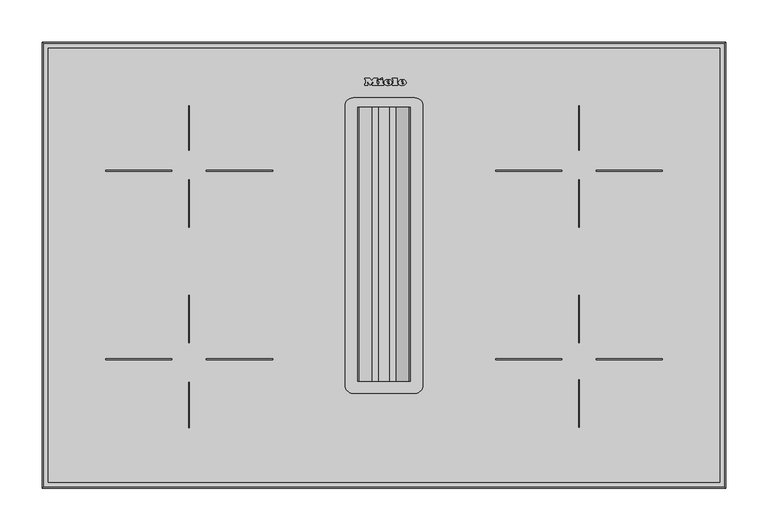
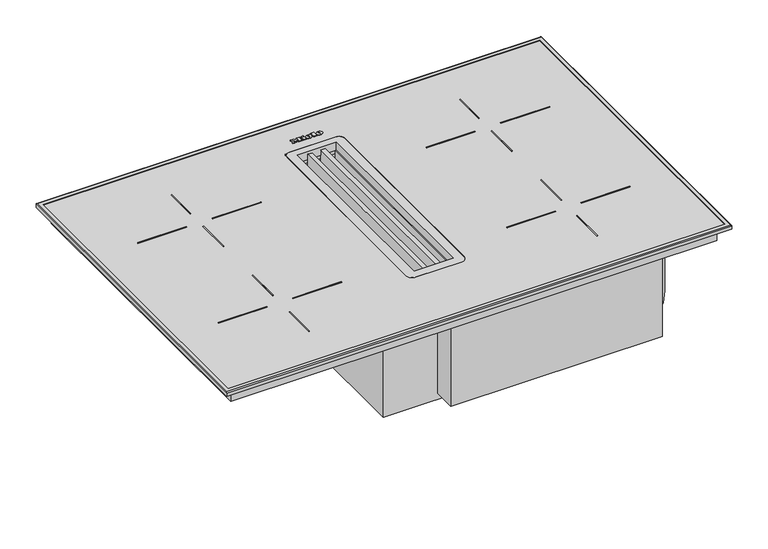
"""IFC4 building model written with IfcOpenShell, lengths in millimetres: proxy geometry, 12970700_NER_KMDA7272-1FR : 26727276_NER_12970700_KMDA7272-1FR."""

from ifc_helpers import new_model, si_unit, point, frame, frame_2d, origin, origin_with_axes, place, context, project, spatial, polyline, circle_curve, ellipse_curve, trimmed, segment, composite_curve, outline, extrude, faceted_brep, source, transform, mapped, element, save
from ifc_brep_helpers import plane_surface, cylinder_surface, revolved_surface, extruded_surface, advanced_brep


def specialty_equipment_56d19404(model_context):
    return source(origin(), model_context, "Body", "SolidModel", [
        advanced_brep(
        [(20.8243124, 477.5406203, 6.0), (20.8243124, 478.3486203, 6.0), (26.1763124, 478.3486203, 6.0), (16.8643124, 478.3486203, 6.0), (19.0643124, 475.6446203, 6.0), (26.0403124, 477.5406203, 6.0), (23.6243124, 477.5406203, 6.0), (21.7203124, 476.6446203, 6.0), (20.8243124, 479.3726203, 6.0), (20.8243124, 480.2446203, 6.0), (22.1923124, 480.2446203, 6.0), (22.1923124, 479.3726203, 6.0), (20.8243124, 477.5406203, 5.0), (21.7203124, 476.6446203, 5.0), (23.6243124, 477.5406203, 5.0), (26.0403124, 477.5406203, 5.0), (19.0643124, 475.6446203, 5.0), (16.8643124, 478.3486203, 5.0), (26.1763124, 478.3486203, 5.0), (20.8243124, 478.3486203, 5.0), (20.8243124, 479.3726203, 5.0), (22.1923124, 479.3726203, 5.0), (22.1923124, 480.2446203, 5.0), (20.8243124, 480.2446203, 5.0)],
        [
            (0, 1),
            (1, 2),
            (2, 3, ellipse_curve(frame((21.5203124, 478.3486203, 6.0), z_axis=(0.0, 0.0, 1.0), x_axis=(-1.0, 0.0, 0.0)), 4.656, 3.848)),
            (3, 4, circle_curve(frame((19.960356, 478.6206203, 6.0), z_axis=(0.0, 0.0, 1.0), x_axis=(0.0, -1.0, 0.0)), 3.1079688)),
            (4, 5, circle_curve(frame((21.4271059, 480.7326203, 6.0), z_axis=(0.0, 0.0, 1.0), x_axis=(0.0, -1.0, 0.0)), 5.6098607)),
            (5, 6),
            (6, 7, circle_curve(frame((22.1113712, 478.2846203, 6.0), z_axis=(0.0, 0.0, -1.0), x_axis=(0.0, -1.0, 0.0)), 1.6859795)),
            (7, 0, circle_curve(frame((21.7203124, 477.5406203, 6.0), z_axis=(0.0, 0.0, -1.0), x_axis=(0.0, -1.0, 0.0)), 0.896)),
            (8, 9),
            (9, 10, circle_curve(frame((21.5083124, 480.2446203, 6.0), z_axis=(0.0, 0.0, -1.0), x_axis=(0.0, -1.0, 0.0)), 0.684)),
            (10, 11),
            (11, 8),
            (12, 13, circle_curve(frame((21.7203124, 477.5406203, 5.0), z_axis=(0.0, 0.0, 1.0), x_axis=(0.0, -1.0, 0.0)), 0.896)),
            (13, 14, circle_curve(frame((22.1113712, 478.2846203, 5.0), z_axis=(0.0, 0.0, 1.0), x_axis=(0.0, -1.0, 0.0)), 1.6859795)),
            (14, 15),
            (15, 16, circle_curve(frame((21.4271059, 480.7326203, 5.0), z_axis=(0.0, 0.0, -1.0), x_axis=(0.0, -1.0, 0.0)), 5.6098607)),
            (16, 17, circle_curve(frame((19.960356, 478.6206203, 5.0), z_axis=(0.0, 0.0, -1.0), x_axis=(0.0, -1.0, 0.0)), 3.1079688)),
            (17, 18, ellipse_curve(frame((21.5203124, 478.3486203, 5.0), z_axis=(0.0, 0.0, -1.0), x_axis=(-1.0, 0.0, 0.0)), 4.656, 3.848)),
            (18, 19),
            (19, 12),
            (20, 21),
            (21, 22),
            (22, 23, circle_curve(frame((21.5083124, 480.2446203, 5.0), z_axis=(0.0, 0.0, 1.0), x_axis=(0.0, -1.0, 0.0)), 0.684)),
            (23, 20),
            (0, 12),
            (19, 1),
            (18, 2),
            (5, 15),
            (14, 6),
            (17, 3),
            (13, 7),
            (16, 4),
            (8, 20),
            (23, 9),
            (22, 10),
            (21, 11),
        ],
        [
            plane_surface(frame((20.8243124, 478.3486203, 6.0), z_axis=(0.0, 0.0, 1.0), x_axis=(0.0, 1.0, 0.0))),
            plane_surface(frame((20.8243124, 478.3486203, 5.0), z_axis=(0.0, 0.0, -1.0), x_axis=(0.0, -1.0, 0.0))),
            plane_surface(frame((20.8243124, 477.5406203, 6.0), z_axis=(1.0, 0.0, 0.0), x_axis=(0.0, 0.0, -1.0))),
            plane_surface(frame((20.8243124, 478.3486203, 6.0), z_axis=(0.0, -1.0, 0.0), x_axis=(0.0, 0.0, -1.0))),
            plane_surface(frame((26.0403124, 477.5406203, 6.0), z_axis=(0.0, 1.0, 0.0), x_axis=(0.0, 0.0, -1.0))),
            extruded_surface(trimmed(ellipse_curve(frame((21.5203124, 478.3486203, 4.0), z_axis=(0.0, 0.0, 1.0), x_axis=(-1.0, 0.0, 0.0)), 4.656, 3.848), [point((26.1763124, 478.3486203, 4.0))], [point((16.8643124, 478.3486203, 4.0))], True, "CARTESIAN"), (0.0, 0.0, 1.0), 1.0),
            revolved_surface(polyline([(22.1113712, 476.5986408, 5.0), (22.1113712, 476.5986408, 6.0)]), (22.1113712, 478.2846203, 5.0), (0.0, 0.0, -1.0)),
            revolved_surface(polyline([(21.7203124, 476.6446203, 5.0), (21.7203124, 476.6446203, 6.0)]), (21.7203124, 477.5406203, 5.0), (0.0, 0.0, -1.0)),
            cylinder_surface(frame((19.960356, 478.6206203, 5.0), z_axis=(0.0, 0.0, 1.0), x_axis=(0.0, -1.0, 0.0)), 3.1079688),
            cylinder_surface(frame((21.4271059, 480.7326203, 5.0), z_axis=(0.0, 0.0, 1.0), x_axis=(0.0, -1.0, 0.0)), 5.6098607),
            plane_surface(frame((20.8243124, 479.3726203, 6.0), z_axis=(1.0, 0.0, 0.0), x_axis=(0.0, 0.0, -1.0))),
            revolved_surface(polyline([(21.5083124, 479.5606203, 5.0), (21.5083124, 479.5606203, 6.0)]), (21.5083124, 480.2446203, 5.0), (0.0, 0.0, -1.0)),
            plane_surface(frame((22.1923124, 480.2446203, 6.0), z_axis=(-1.0, 0.0, 0.0), x_axis=(0.0, 0.0, -1.0))),
            plane_surface(frame((22.1923124, 479.3726203, 6.0), z_axis=(0.0, 1.0, 0.0), x_axis=(0.0, 0.0, -1.0))),
        ],
        [
            (0, [[1, 2, 3, 4, 5, 6, 7, 8], [9, 10, 11, 12]]),
            (1, [[13, 14, 15, 16, 17, 18, 19, 20], [21, 22, 23, 24]]),
            (2, [[-1, 25, -20, 26]]),
            (3, [[-2, -26, -19, 27]]),
            (4, [[-6, 28, -15, 29]]),
            (5, [[-3, -27, -18, 30]]),
            (6, [[-7, -29, -14, 31]]),
            (7, [[-8, -31, -13, -25]]),
            (8, [[-4, -30, -17, 32]]),
            (9, [[-5, -32, -16, -28]]),
            (10, [[-9, 33, -24, 34]]),
            (11, [[-10, -34, -23, 35]]),
            (12, [[-11, -35, -22, 36]]),
            (13, [[-12, -36, -21, -33]]),
        ],
    ),
        advanced_brep(
        [(4.1283124, 477.5406203, 6.0), (4.1283124, 478.3486203, 6.0), (9.4803124, 478.3486203, 6.0), (0.1683124, 478.3486203, 6.0), (2.3683124, 475.6446203, 6.0), (9.3443124, 477.5406203, 6.0), (6.9283124, 477.5406203, 6.0), (5.0243124, 476.6446203, 6.0), (4.1283124, 479.3726203, 6.0), (4.1283124, 480.2446203, 6.0), (5.4963124, 480.2446203, 6.0), (5.4963124, 479.3726203, 6.0), (4.1283124, 477.5406203, 5.0), (5.0243124, 476.6446203, 5.0), (6.9283124, 477.5406203, 5.0), (9.3443124, 477.5406203, 5.0), (2.3683124, 475.6446203, 5.0), (0.1683124, 478.3486203, 5.0), (9.4803124, 478.3486203, 5.0), (4.1283124, 478.3486203, 5.0), (4.1283124, 479.3726203, 5.0), (5.4963124, 479.3726203, 5.0), (5.4963124, 480.2446203, 5.0), (4.1283124, 480.2446203, 5.0)],
        [
            (0, 1),
            (1, 2),
            (2, 3, ellipse_curve(frame((4.8243124, 478.3486203, 6.0), z_axis=(0.0, 0.0, 1.0), x_axis=(-1.0, 0.0, 0.0)), 4.656, 3.848)),
            (3, 4, circle_curve(frame((3.264356, 478.6206203, 6.0), z_axis=(0.0, 0.0, 1.0), x_axis=(0.0, -1.0, 0.0)), 3.1079688)),
            (4, 5, circle_curve(frame((4.7311059, 480.7326203, 6.0), z_axis=(0.0, 0.0, 1.0), x_axis=(0.0, -1.0, 0.0)), 5.6098607)),
            (5, 6),
            (6, 7, circle_curve(frame((5.4153712, 478.2846203, 6.0), z_axis=(0.0, 0.0, -1.0), x_axis=(0.0, -1.0, 0.0)), 1.6859795)),
            (7, 0, circle_curve(frame((5.0243124, 477.5406203, 6.0), z_axis=(0.0, 0.0, -1.0), x_axis=(0.0, -1.0, 0.0)), 0.896)),
            (8, 9),
            (9, 10, circle_curve(frame((4.8123124, 480.2446203, 6.0), z_axis=(0.0, 0.0, -1.0), x_axis=(0.0, -1.0, 0.0)), 0.684)),
            (10, 11),
            (11, 8),
            (12, 13, circle_curve(frame((5.0243124, 477.5406203, 5.0), z_axis=(0.0, 0.0, 1.0), x_axis=(0.0, -1.0, 0.0)), 0.896)),
            (13, 14, circle_curve(frame((5.4153712, 478.2846203, 5.0), z_axis=(0.0, 0.0, 1.0), x_axis=(0.0, -1.0, 0.0)), 1.6859795)),
            (14, 15),
            (15, 16, circle_curve(frame((4.7311059, 480.7326203, 5.0), z_axis=(0.0, 0.0, -1.0), x_axis=(0.0, -1.0, 0.0)), 5.6098607)),
            (16, 17, circle_curve(frame((3.264356, 478.6206203, 5.0), z_axis=(0.0, 0.0, -1.0), x_axis=(0.0, -1.0, 0.0)), 3.1079688)),
            (17, 18, ellipse_curve(frame((4.8243124, 478.3486203, 5.0), z_axis=(0.0, 0.0, -1.0), x_axis=(-1.0, 0.0, 0.0)), 4.656, 3.848)),
            (18, 19),
            (19, 12),
            (20, 21),
            (21, 22),
            (22, 23, circle_curve(frame((4.8123124, 480.2446203, 5.0), z_axis=(0.0, 0.0, 1.0), x_axis=(0.0, -1.0, 0.0)), 0.684)),
            (23, 20),
            (0, 12),
            (19, 1),
            (18, 2),
            (5, 15),
            (14, 6),
            (17, 3),
            (13, 7),
            (16, 4),
            (8, 20),
            (23, 9),
            (22, 10),
            (21, 11),
        ],
        [
            plane_surface(frame((4.1283124, 478.3486203, 6.0), z_axis=(0.0, 0.0, 1.0), x_axis=(0.0, 1.0, 0.0))),
            plane_surface(frame((4.1283124, 478.3486203, 5.0), z_axis=(0.0, 0.0, -1.0), x_axis=(0.0, -1.0, 0.0))),
            plane_surface(frame((4.1283124, 477.5406203, 6.0), z_axis=(1.0, 0.0, 0.0), x_axis=(0.0, 0.0, -1.0))),
            plane_surface(frame((4.1283124, 478.3486203, 6.0), z_axis=(0.0, -1.0, 0.0), x_axis=(0.0, 0.0, -1.0))),
            plane_surface(frame((9.3443124, 477.5406203, 6.0), z_axis=(0.0, 1.0, 0.0), x_axis=(0.0, 0.0, -1.0))),
            extruded_surface(trimmed(ellipse_curve(frame((4.8243124, 478.3486203, 4.0), z_axis=(0.0, 0.0, 1.0), x_axis=(-1.0, 0.0, 0.0)), 4.656, 3.848), [point((9.4803124, 478.3486203, 4.0))], [point((0.1683124, 478.3486203, 4.0))], True, "CARTESIAN"), (0.0, 0.0, 1.0), 1.0),
            revolved_surface(polyline([(5.4153712, 476.5986408, 5.0), (5.4153712, 476.5986408, 6.0)]), (5.4153712, 478.2846203, 5.0), (0.0, 0.0, -1.0)),
            revolved_surface(polyline([(5.0243124, 476.6446203, 5.0), (5.0243124, 476.6446203, 6.0)]), (5.0243124, 477.5406203, 5.0), (0.0, 0.0, -1.0)),
            cylinder_surface(frame((3.264356, 478.6206203, 5.0), z_axis=(0.0, 0.0, 1.0), x_axis=(0.0, -1.0, 0.0)), 3.1079688),
            cylinder_surface(frame((4.7311059, 480.7326203, 5.0), z_axis=(0.0, 0.0, 1.0), x_axis=(0.0, -1.0, 0.0)), 5.6098607),
            plane_surface(frame((4.1283124, 479.3726203, 6.0), z_axis=(1.0, 0.0, 0.0), x_axis=(0.0, 0.0, -1.0))),
            revolved_surface(polyline([(4.8123124, 479.5606203, 5.0), (4.8123124, 479.5606203, 6.0)]), (4.8123124, 480.2446203, 5.0), (0.0, 0.0, -1.0)),
            plane_surface(frame((5.4963124, 480.2446203, 6.0), z_axis=(-1.0, 0.0, 0.0), x_axis=(0.0, 0.0, -1.0))),
            plane_surface(frame((5.4963124, 479.3726203, 6.0), z_axis=(0.0, 1.0, 0.0), x_axis=(0.0, 0.0, -1.0))),
        ],
        [
            (0, [[1, 2, 3, 4, 5, 6, 7, 8], [9, 10, 11, 12]]),
            (1, [[13, 14, 15, 16, 17, 18, 19, 20], [21, 22, 23, 24]]),
            (2, [[-1, 25, -20, 26]]),
            (3, [[-2, -26, -19, 27]]),
            (4, [[-6, 28, -15, 29]]),
            (5, [[-3, -27, -18, 30]]),
            (6, [[-7, -29, -14, 31]]),
            (7, [[-8, -31, -13, -25]]),
            (8, [[-4, -30, -17, 32]]),
            (9, [[-5, -32, -16, -28]]),
            (10, [[-9, 33, -24, 34]]),
            (11, [[-10, -34, -23, 35]]),
            (12, [[-11, -35, -22, 36]]),
            (13, [[-12, -36, -21, -33]]),
        ],
    ),
        extrude(outline(polyline([(-4.6156876, 483.1726203), (-1.8956876, 484.4366203), (-1.2956876, 483.1406203), (-4.0076876, 481.8766203), (-4.6156876, 483.1726203)])), frame((0.0, 0.0, 5.0), z_axis=(0.0, 0.0, 1.0), x_axis=(1.0, 0.0, 0.0)), (0.0, 0.0, 1.0), 1.0),
        extrude(outline(polyline([(-6.5916876, 481.7006203), (-1.2076876, 481.7006203), (-1.2076876, 476.9886203), (-0.2796876, 476.9886203), (-0.2796876, 475.6446203), (-6.5916876, 475.6446203), (-6.5916876, 476.9886203), (-5.6396876, 476.9886203), (-5.6396876, 480.2686203), (-6.5916876, 480.2686203), (-6.5916876, 481.7006203)])), frame((0.0, 0.0, 5.0), z_axis=(0.0, 0.0, 1.0), x_axis=(1.0, 0.0, 0.0)), (0.0, 0.0, 1.0), 1.0),
        extrude(outline(polyline([(9.9283124, 482.3406203), (9.9283124, 483.6446203), (15.4323124, 483.6446203), (15.4323124, 476.9886203), (16.4163124, 476.9886203), (16.4163124, 475.6446203), (9.9283124, 475.6446203), (9.9283124, 476.9886203), (10.8883124, 476.9886203), (10.8883124, 482.3406203), (9.9283124, 482.3406203)])), frame((0.0, 0.0, 5.0), z_axis=(0.0, 0.0, 1.0), x_axis=(1.0, 0.0, 0.0)), (0.0, 0.0, 1.0), 1.0),
        extrude(outline(polyline([(-22.5356876, 482.3406203), (-22.5356876, 483.6446203), (-16.9596876, 483.6446203), (-14.6156876, 480.6446203), (-12.2796876, 483.6446203), (-7.4076876, 483.6446203), (-7.4076876, 482.3406203), (-8.4236876, 482.3406203), (-8.4236876, 476.9886203), (-7.4076876, 476.9886203), (-7.4076876, 475.6446203), (-13.7916876, 475.6446203), (-13.7916876, 476.9886203), (-12.8076876, 476.9886203), (-12.8076876, 480.4598426), (-16.3996876, 475.6446203), (-19.9756876, 480.3917451), (-19.9756876, 476.9886203), (-19.0156876, 476.9886203), (-19.0156876, 475.6446203), (-22.5356876, 475.6446203), (-22.5356876, 476.9886203), (-21.5676876, 476.9886203), (-21.5676876, 482.3406203), (-22.5356876, 482.3406203)])), frame((0.0, 0.0, 5.0), z_axis=(0.0, 0.0, 1.0), x_axis=(1.0, 0.0, 0.0)), (0.0, 0.0, 1.0), 1.0),
        faceted_brep([(-71.7186221, 463.5236466, -23.0), (-364.8972461, 463.5236466, -23.0), (-364.8972461, 62.427471, -23.0), (-71.7186221, 62.427471, -23.0), (-71.7186221, 62.427471, -49.8134964), (-364.8972461, 62.427471, -49.8134964), (-364.8972461, 463.5236466, -49.8134964), (-86.144412, 463.5236466, -49.8134964), (-86.144412, 355.5236466, -49.8134964), (-71.7186221, 355.5236466, -49.8134964), (-71.7186221, 463.5236466, -31.728133), (-86.144412, 463.5236466, -31.728133), (-71.7186221, 355.5236466, -31.728133), (-86.144412, 355.5236466, -31.728133)], [[[0, 1, 2, 3]], [[4, 5, 6, 7, 8, 9]], [[1, 0, 10, 11, 7, 6]], [[2, 1, 6, 5]], [[3, 2, 5, 4]], [[0, 3, 4, 9, 12, 10]], [[8, 13, 12, 9]], [[12, 13, 11, 10]], [[13, 8, 7, 11]]]),
        extrude(outline(polyline([(388.0, 511.0), (388.0, 15.0), (-388.0, 15.0), (-388.0, 511.0), (388.0, 511.0)]), holes=[composite_curve([segment(trimmed(circle_curve(frame_2d((36.5, 121.5)), 9.5), [point((36.5, 112.0))], [point((46.0, 121.5))], True, "CARTESIAN"), True, "CONTINUOUS"), segment(polyline([(46.0, 121.5), (46.0, 451.0)]), True, "CONTINUOUS"), segment(trimmed(circle_curve(frame_2d((36.5, 451.0)), 9.5), [point((46.0, 451.0))], [point((36.5, 460.5))], True, "CARTESIAN"), True, "CONTINUOUS"), segment(polyline([(36.5, 460.5), (-36.5395335, 460.5)]), True, "CONTINUOUS"), segment(trimmed(circle_curve(frame_2d((-36.5395335, 451.0395335)), 9.4604665), [point((-36.5395335, 460.5))], [point((-46.0, 451.0395335))], True, "CARTESIAN"), True, "CONTINUOUS"), segment(polyline([(-46.0, 451.0395335), (-46.0, 121.5)]), True, "CONTINUOUS"), segment(trimmed(circle_curve(frame_2d((-36.5, 121.5)), 9.5), [point((-46.0, 121.5))], [point((-36.5, 112.0))], True, "CARTESIAN"), True, "CONTINUOUS"), segment(polyline([(-36.5, 112.0), (36.5, 112.0)]), True, "CONTINUOUS")], self_intersect=False)]), frame((0.0, 0.0, -23.0), z_axis=(0.0, 0.0, 1.0), x_axis=(1.0, 0.0, 0.0)), (0.0, 0.0, 1.0), 23.0),
        extrude(outline(polyline([(400.0, 523.0), (400.0, 3.0), (-400.0, 3.0), (-400.0, 523.0), (400.0, 523.0)]), holes=[composite_curve([segment(polyline([(36.5, 460.5), (-36.5, 460.5)]), True, "CONTINUOUS"), segment(trimmed(circle_curve(frame_2d((-36.5, 451.0)), 9.5), [point((-36.5, 460.5))], [point((-46.0, 451.0))], True, "CARTESIAN"), True, "CONTINUOUS"), segment(polyline([(-46.0, 451.0), (-46.0, 121.5)]), True, "CONTINUOUS"), segment(trimmed(circle_curve(frame_2d((-36.5, 121.5)), 9.5), [point((-46.0, 121.5))], [point((-36.5, 112.0))], True, "CARTESIAN"), True, "CONTINUOUS"), segment(polyline([(-36.5, 112.0), (36.5, 112.0)]), True, "CONTINUOUS"), segment(trimmed(circle_curve(frame_2d((36.5, 121.5)), 9.5), [point((36.5, 112.0))], [point((46.0, 121.5))], True, "CARTESIAN"), True, "CONTINUOUS"), segment(polyline([(46.0, 121.5), (46.0, 451.0)]), True, "CONTINUOUS"), segment(trimmed(circle_curve(frame_2d((36.5, 451.0)), 9.5), [point((46.0, 451.0))], [point((36.5, 460.5))], True, "CARTESIAN"), True, "CONTINUOUS")], self_intersect=False)]), origin_with_axes(), (0.0, 0.0, 1.0), 5.0),
        advanced_brep(
        [(401.854005, 524.854005, 5.8455827), (401.854005, 524.854005, 0.0), (401.854005, 1.145995, 0.0), (401.854005, 1.145995, 5.8455827), (395.9867041, 518.9867041, 7.0), (395.9867041, 518.9867041, 5.8455827), (395.9867041, 7.0132959, 5.8455827), (395.9867041, 7.0132959, 7.0), (403.0, 526.0, 0.0), (403.0, 526.0, 5.5), (403.0, 0.0, 5.5), (403.0, 0.0, 0.0), (-401.854005, 1.145995, 0.0), (-401.854005, 1.145995, 5.8455827), (-395.9867041, 7.0132959, 5.8455827), (-395.9867041, 7.0132959, 7.0), (-403.0, 0.0, 5.5), (-403.0, 0.0, 0.0), (-401.854005, 524.854005, 0.0), (-401.854005, 524.854005, 5.8455827), (-395.9867041, 518.9867041, 5.8455827), (-395.9867041, 518.9867041, 7.0), (-403.0, 526.0, 5.5), (-403.0, 526.0, 0.0), (401.5, 524.5, 7.0), (-401.5, 524.5, 7.0), (-401.5, 1.5, 7.0), (401.5, 1.5, 7.0)],
        [
            (0, 1),
            (1, 2),
            (2, 3),
            (3, 0),
            (4, 5),
            (5, 6),
            (6, 7),
            (7, 4),
            (8, 9),
            (9, 10),
            (10, 11),
            (11, 8),
            (2, 12),
            (12, 13),
            (13, 3),
            (6, 14),
            (14, 15),
            (15, 7),
            (10, 16),
            (16, 17),
            (17, 11),
            (12, 18),
            (18, 19),
            (19, 13),
            (14, 20),
            (20, 21),
            (21, 15),
            (16, 22),
            (22, 23),
            (23, 17),
            (23, 8),
            (1, 18),
            (0, 19),
            (5, 20),
            (4, 21),
            (24, 25),
            (25, 26),
            (26, 27),
            (27, 24),
            (22, 9),
            (9, 24, ellipse_curve(frame((401.5, 524.5, 5.5), z_axis=(0.7071067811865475, -0.7071067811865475, 0.0), x_axis=(0.7071067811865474, 0.7071067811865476, 0.0)), 2.1213203, 1.5)),
            (27, 10, ellipse_curve(frame((401.5, 1.5, 5.5), z_axis=(0.7071067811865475, 0.7071067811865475, 0.0), x_axis=(-0.7071067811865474, 0.7071067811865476, 0.0)), 2.1213203, 1.5)),
            (26, 16, ellipse_curve(frame((-401.5, 1.5, 5.5), z_axis=(0.7071067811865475, -0.7071067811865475, 0.0), x_axis=(0.7071067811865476, 0.7071067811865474, 0.0)), 2.1213203, 1.5)),
            (25, 22, ellipse_curve(frame((-401.5, 524.5, 5.5), z_axis=(-0.7071067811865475, -0.7071067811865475, 0.0), x_axis=(0.7071067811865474, -0.7071067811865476, 0.0)), 2.1213203, 1.5)),
        ],
        [
            plane_surface(frame((401.854005, 524.854005, 0.0), z_axis=(-1.0, 0.0, 0.0), x_axis=(0.0, -1.0, 0.0))),
            plane_surface(frame((395.9867041, 518.9867041, 5.8455827), z_axis=(-1.0, 0.0, 0.0), x_axis=(0.0, -1.0, 0.0))),
            plane_surface(frame((403.0, 526.0, 5.5), z_axis=(1.0, 0.0, 0.0), x_axis=(0.0, -1.0, 0.0))),
            plane_surface(frame((401.854005, 1.145995, 0.0), z_axis=(0.0, 1.0, 0.0), x_axis=(-1.0, 0.0, 0.0))),
            plane_surface(frame((395.9867041, 7.0132959, 5.8455827), z_axis=(0.0, 1.0, 0.0), x_axis=(-1.0, 0.0, 0.0))),
            plane_surface(frame((403.0, 0.0, 5.5), z_axis=(0.0, -1.0, 0.0), x_axis=(-1.0, 0.0, 0.0))),
            plane_surface(frame((-401.854005, 1.145995, 0.0), z_axis=(1.0, 0.0, 0.0), x_axis=(0.0, 1.0, 0.0))),
            plane_surface(frame((-395.9867041, 7.0132959, 5.8455827), z_axis=(1.0, 0.0, 0.0), x_axis=(0.0, 1.0, 0.0))),
            plane_surface(frame((-403.0, 0.0, 5.5), z_axis=(-1.0, 0.0, 0.0), x_axis=(0.0, 1.0, 0.0))),
            plane_surface(frame((-403.0, 526.0, 0.0), z_axis=(0.0, 0.0, -1.0), x_axis=(1.0, 0.0, 0.0))),
            plane_surface(frame((-401.854005, 524.854005, 0.0), z_axis=(0.0, -1.0, 0.0), x_axis=(1.0, 0.0, 0.0))),
            plane_surface(frame((-401.854005, 524.854005, 5.8455827), z_axis=(0.0, 0.0, -1.0), x_axis=(1.0, 0.0, 0.0))),
            plane_surface(frame((-395.9867041, 518.9867041, 5.8455827), z_axis=(0.0, -1.0, 0.0), x_axis=(1.0, 0.0, 0.0))),
            plane_surface(frame((-395.9867041, 518.9867041, 7.0), z_axis=(0.0, 0.0, 1.0), x_axis=(1.0, 0.0, 0.0))),
            plane_surface(frame((-403.0, 526.0, 5.5), z_axis=(0.0, 1.0, 0.0), x_axis=(1.0, 0.0, 0.0))),
            cylinder_surface(frame((401.5, 526.0, 5.5), z_axis=(0.0, 1.0, 0.0), x_axis=(1.0, 0.0, 0.0)), 1.5),
            cylinder_surface(frame((403.0, 1.5, 5.5), z_axis=(1.0, 0.0, 0.0), x_axis=(0.0, -1.0, 0.0)), 1.5),
            cylinder_surface(frame((-401.5, 0.0, 5.5), z_axis=(0.0, -1.0, 0.0), x_axis=(-1.0, 0.0, 0.0)), 1.5),
            cylinder_surface(frame((-403.0, 524.5, 5.5), z_axis=(-1.0, 0.0, 0.0), x_axis=(0.0, 1.0, 0.0)), 1.5),
        ],
        [
            (0, [[1, 2, 3, 4]]),
            (1, [[5, 6, 7, 8]]),
            (2, [[9, 10, 11, 12]]),
            (3, [[-3, 13, 14, 15]]),
            (4, [[-7, 16, 17, 18]]),
            (5, [[-11, 19, 20, 21]]),
            (6, [[-14, 22, 23, 24]]),
            (7, [[-17, 25, 26, 27]]),
            (8, [[-20, 28, 29, 30]]),
            (9, [[-21, -30, 31, -12], [32, -22, -13, -2]]),
            (10, [[-23, -32, -1, 33]]),
            (11, [[-15, -24, -33, -4], [34, -25, -16, -6]]),
            (12, [[-26, -34, -5, 35]]),
            (13, [[36, 37, 38, 39], [-18, -27, -35, -8]]),
            (14, [[-29, 40, -9, -31]]),
            (15, [[41, -39, 42, -10]]),
            (16, [[-42, -38, 43, -19]]),
            (17, [[-43, -37, 44, -28]]),
            (18, [[-44, -36, -41, -40]]),
        ],
    ),
        extrude(outline(polyline([(229.5, 364.0), (230.5, 364.0), (230.5, 308.0), (229.5, 308.0), (229.5, 364.0)])), frame((0.0, 0.0, 5.0), z_axis=(0.0, 0.0, 1.0), x_axis=(1.0, 0.0, 0.0)), (0.0, 0.0, 1.0), 1.0),
        extrude(outline(polyline([(230.5, 171.6409309), (229.5, 171.6409309), (229.5, 227.6409309), (230.5, 227.6409309), (230.5, 171.6409309)])), frame((0.0, 0.0, 5.0), z_axis=(0.0, 0.0, 1.0), x_axis=(1.0, 0.0, 0.0)), (0.0, 0.0, 1.0), 1.0),
        extrude(outline(polyline([(-229.5, 364.0), (-229.5, 308.0), (-230.5, 308.0), (-230.5, 364.0), (-229.5, 364.0)])), frame((0.0, 0.0, 5.0), z_axis=(0.0, 0.0, 1.0), x_axis=(1.0, 0.0, 0.0)), (0.0, 0.0, 1.0), 1.0),
        extrude(outline(polyline([(-230.5, 171.6409309), (-230.5, 227.6409309), (-229.5, 227.6409309), (-229.5, 171.6409309), (-230.5, 171.6409309)])), frame((0.0, 0.0, 5.0), z_axis=(0.0, 0.0, 1.0), x_axis=(1.0, 0.0, 0.0)), (0.0, 0.0, 1.0), 1.0),
        extrude(outline(polyline([(-45.5823584, -70.2509053), (-35.5367274, -70.2509053), (-35.5367274, -77.4712026), (-36.7924312, -77.4712026), (-36.7924312, -71.5066091), (-39.7747279, -71.5066091), (-39.7747279, -77.1572766), (-41.0304318, -77.1572766), (-41.0304318, -71.5066091), (-44.3266545, -71.5066091), (-44.3266545, -77.6281655), (-45.5823584, -77.6281655), (-45.5823584, -70.2509053)])), frame((0.0, 408.5236466, 0.0), z_axis=(0.0, 1.0, 0.0), x_axis=(0.0, 0.0, 1.0)), (0.0, 0.0, 1.0), 1.0),
        extrude(outline(polyline([(-45.5823584, -79.5117214), (-35.5367274, -79.5117214), (-35.5367274, -80.7674252), (-44.3266545, -80.7674252), (-44.3266545, -85.7902407), (-45.5823584, -85.7902407), (-45.5823584, -79.5117214)])), frame((0.0, 408.5236466, 0.0), z_axis=(0.0, 1.0, 0.0), x_axis=(0.0, 0.0, 1.0)), (0.0, 0.0, 1.0), 1.0),
        advanced_brep(
        [(-86.144412, 373.5236466, -40.8134964), (-86.144412, 383.5236466, -40.8134964), (-71.144412, 373.5236466, -40.8134964), (-81.144412, 383.5236466, -40.8134964), (-71.144412, 408.5236466, -40.8134964), (-81.144412, 408.5236466, -40.8134964)],
        [
            (0, 1, circle_curve(frame((-86.144412, 378.5236466, -40.8134964), z_axis=(-1.0, 0.0, 0.0), x_axis=(0.0, 1.0, 0.0)), 5.0)),
            (1, 0, circle_curve(frame((-86.144412, 378.5236466, -40.8134964), z_axis=(-1.0, 0.0, 0.0), x_axis=(0.0, 1.0, 0.0)), 5.0)),
            (0, 2),
            (2, 3, ellipse_curve(frame((-76.144412, 378.5236466, -40.8134964), z_axis=(-0.7071067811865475, -0.7071067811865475, 0.0), x_axis=(-0.7071067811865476, 0.7071067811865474, 0.0)), 7.0710678, 5.0)),
            (3, 1),
            (3, 2, ellipse_curve(frame((-76.144412, 378.5236466, -40.8134964), z_axis=(-0.7071067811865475, -0.7071067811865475, 0.0), x_axis=(-0.7071067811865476, 0.7071067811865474, 0.0)), 7.0710678, 5.0)),
            (4, 5, circle_curve(frame((-76.144412, 408.5236466, -40.8134964), z_axis=(0.0, 1.0, 0.0), x_axis=(-1.0, 0.0, 0.0)), 5.0)),
            (5, 4, circle_curve(frame((-76.144412, 408.5236466, -40.8134964), z_axis=(0.0, 1.0, 0.0), x_axis=(-1.0, 0.0, 0.0)), 5.0)),
            (2, 4),
            (5, 3),
        ],
        [
            plane_surface(frame((-86.144412, 378.5236466, 0.0), z_axis=(-1.0, 0.0, 0.0), x_axis=(0.0, 0.0, 1.0))),
            cylinder_surface(frame((-86.144412, 378.5236466, -40.8134964), z_axis=(-1.0, 0.0, 0.0), x_axis=(0.0, 1.0, 0.0)), 5.0),
            plane_surface(frame((-76.144412, 408.5236466, 0.0), z_axis=(0.0, 1.0, 0.0), x_axis=(0.0, 0.0, 1.0))),
            cylinder_surface(frame((-76.144412, 378.5236466, -40.8134964), z_axis=(0.0, -1.0, 0.0), x_axis=(-1.0, 0.0, 0.0)), 5.0),
        ],
        [
            (0, [[1, 2]]),
            (1, [[-1, 3, 4, 5]]),
            (1, [[-2, -5, 6, -3]]),
            (2, [[7, 8]]),
            (3, [[-4, 9, -8, 10]]),
            (3, [[-6, -10, -7, -9]]),
        ],
    ),
        extrude(outline(polyline([(-250.5, 375.0), (-250.5, 374.0), (-328.5, 374.0), (-328.5, 375.0), (-250.5, 375.0)])), frame((0.0, 0.0, 5.0), z_axis=(0.0, 0.0, 1.0), x_axis=(1.0, 0.0, 0.0)), (0.0, 0.0, 1.0), 1.0),
        extrude(outline(polyline([(-131.5, 375.0), (-131.5, 374.0), (-209.5, 374.0), (-209.5, 375.0), (-131.5, 375.0)])), frame((0.0, 0.0, 5.0), z_axis=(0.0, 0.0, 1.0), x_axis=(1.0, 0.0, 0.0)), (0.0, 0.0, 1.0), 1.0),
        extrude(outline(polyline([(-250.5, 151.7), (-328.4422621, 151.7), (-328.4422621, 152.7), (-250.5, 152.7), (-250.5, 151.7)])), frame((0.0, 0.0, 5.0), z_axis=(0.0, 0.0, 1.0), x_axis=(1.0, 0.0, 0.0)), (0.0, 0.0, 1.0), 1.0),
        extrude(outline(polyline([(-131.5, 152.7), (-131.5, 151.7), (-209.5, 151.7), (-209.5, 152.7), (-131.5, 152.7)])), frame((0.0, 0.0, 5.0), z_axis=(0.0, 0.0, 1.0), x_axis=(1.0, 0.0, 0.0)), (0.0, 0.0, 1.0), 1.0),
        extrude(outline(polyline([(250.5, 375.0), (328.5, 375.0), (328.5, 374.0), (250.5, 374.0), (250.5, 375.0)])), frame((0.0, 0.0, 5.0), z_axis=(0.0, 0.0, 1.0), x_axis=(1.0, 0.0, 0.0)), (0.0, 0.0, 1.0), 1.0),
        extrude(outline(polyline([(132.0, 375.0), (209.5, 375.0), (209.5, 374.0), (132.0, 374.0), (132.0, 375.0)])), frame((0.0, 0.0, 5.0), z_axis=(0.0, 0.0, 1.0), x_axis=(1.0, 0.0, 0.0)), (0.0, 0.0, 1.0), 1.0),
        extrude(outline(polyline([(-230.5, 71.5), (-230.5, 125.0), (-229.5, 125.0), (-229.5, 71.5), (-230.5, 71.5)])), frame((0.0, 0.0, 5.0), z_axis=(0.0, 0.0, 1.0), x_axis=(1.0, 0.0, 0.0)), (0.0, 0.0, 1.0), 1.0),
        extrude(outline(polyline([(230.5, 72.0), (229.5, 72.0), (229.5, 128.0), (230.5, 128.0), (230.5, 72.0)])), frame((0.0, 0.0, 5.0), z_axis=(0.0, 0.0, 1.0), x_axis=(1.0, 0.0, 0.0)), (0.0, 0.0, 1.0), 1.0),
        extrude(outline(polyline([(230.5, 451.5), (230.5, 399.0), (229.5, 399.0), (229.5, 451.5), (230.5, 451.5)])), frame((0.0, 0.0, 5.0), z_axis=(0.0, 0.0, 1.0), x_axis=(1.0, 0.0, 0.0)), (0.0, 0.0, 1.0), 1.0),
        extrude(outline(polyline([(-230.5, 451.5), (-229.5, 451.5), (-229.5, 399.0), (-230.5, 399.0), (-230.5, 451.5)])), frame((0.0, 0.0, 5.0), z_axis=(0.0, 0.0, 1.0), x_axis=(1.0, 0.0, 0.0)), (0.0, 0.0, 1.0), 1.0),
        extrude(outline(polyline([(250.5, 151.7), (250.5, 152.7), (328.5, 152.7), (328.5, 151.7), (250.5, 151.7)])), frame((0.0, 0.0, 5.0), z_axis=(0.0, 0.0, 1.0), x_axis=(1.0, 0.0, 0.0)), (0.0, 0.0, 1.0), 1.0),
        extrude(outline(polyline([(132.0, 151.7), (132.0, 152.7), (209.5, 152.7), (209.5, 151.7), (132.0, 151.7)])), frame((0.0, 0.0, 5.0), z_axis=(0.0, 0.0, 1.0), x_axis=(1.0, 0.0, 0.0)), (0.0, 0.0, 1.0), 1.0),
        extrude(outline(polyline([(14.0, 126.177901), (7.0, 126.177901), (7.0, 449.3010247), (14.0, 449.3010247), (14.0, 126.177901)])), frame((0.0, 0.0, -30.0), z_axis=(0.0, 0.0, 1.0), x_axis=(1.0, 0.0, 0.0)), (0.0, 0.0, 1.0), 30.0),
        extrude(outline(polyline([(-7.0, 126.177901), (-14.0, 126.177901), (-14.0, 449.3010247), (-7.0, 449.3010247), (-7.0, 126.177901)])), frame((0.0, 0.0, -30.0), z_axis=(0.0, 0.0, 1.0), x_axis=(1.0, 0.0, 0.0)), (0.0, 0.0, 1.0), 30.0),
        extrude(outline(polyline([(-149.3933796, 8.7812172), (-23.0, 31.0806576), (-8.6002538, 31.0806576), (-8.6002538, 30.0806576), (-22.9176, 30.0806576), (-148.3933796, 7.9334714), (-148.3933796, -10.4294884), (-23.1226136, -30.0513858), (-8.6002538, -30.0513858), (-8.6002538, -31.0802193), (-23.0, -31.0802193), (-149.3933796, -11.2930358), (-149.3933796, 8.7812172)])), frame((0.0, 126.177901, 0.0), z_axis=(0.0, 1.0, 0.0), x_axis=(0.0, 0.0, 1.0)), (0.0, 0.0, 1.0), 323.1231238),
        advanced_brep(
        [(65.0, 90.0, -196.0003671), (65.0, 90.0, -23.0), (-55.0, 90.0, -23.0), (-58.0, 90.0, -26.0), (-58.0, 90.0, -78.0), (-97.8585744, 90.0, -78.0), (-100.8585744, 90.0, -81.0), (-100.8585744, 90.0, -196.0003671), (65.0, 476.0, -196.0003671), (-100.8585744, 476.0, -196.0003671), (-100.8585744, 476.0, -81.0), (-97.8585744, 476.0, -78.0), (-58.0, 476.0, -78.0), (-58.0, 476.0, -26.0), (-55.0, 476.0, -23.0), (65.0, 476.0, -23.0), (-31.0802193, 449.3010247, -23.0), (31.0806576, 449.3010247, -23.0), (31.0806576, 126.177901, -23.0), (-31.0802193, 126.177901, -23.0), (31.0806576, 449.3010247, -150.3933796), (-31.0802193, 449.3010247, -150.3933796), (-31.0802193, 126.177901, -150.3933796), (31.0806576, 126.177901, -150.3933796)],
        [
            (0, 1),
            (1, 2),
            (2, 3, circle_curve(frame((-55.0, 90.0, -26.0), z_axis=(0.0, -1.0, 0.0), x_axis=(1.0, 0.0, 0.0)), 3.0)),
            (3, 4),
            (4, 5),
            (5, 6, circle_curve(frame((-97.8585744, 90.0, -81.0), z_axis=(0.0, -1.0, 0.0), x_axis=(1.0, 0.0, 0.0)), 3.0)),
            (6, 7),
            (7, 0),
            (8, 9),
            (9, 10),
            (10, 11, circle_curve(frame((-97.8585744, 476.0, -81.0), z_axis=(0.0, 1.0, 0.0), x_axis=(1.0, 0.0, 0.0)), 3.0)),
            (11, 12),
            (12, 13),
            (13, 14, circle_curve(frame((-55.0, 476.0, -26.0), z_axis=(0.0, 1.0, 0.0), x_axis=(1.0, 0.0, 0.0)), 3.0)),
            (14, 15),
            (15, 8),
            (0, 8),
            (15, 1),
            (14, 2),
            (16, 17),
            (17, 18),
            (18, 19),
            (19, 16),
            (3, 13),
            (12, 4),
            (11, 5),
            (6, 10),
            (9, 7),
            (20, 21),
            (21, 22),
            (22, 23),
            (23, 20),
            (20, 17),
            (16, 21),
            (19, 22),
            (18, 23),
        ],
        [
            plane_surface(frame((65.0, 90.0, -196.0003671), z_axis=(0.0, -1.0, 0.0), x_axis=(0.0, 0.0, 1.0))),
            plane_surface(frame((65.0, 476.0, -196.0003671), z_axis=(0.0, 1.0, 0.0), x_axis=(0.0, 0.0, -1.0))),
            plane_surface(frame((65.0, 90.0, -196.0003671), z_axis=(1.0, 0.0, 0.0), x_axis=(0.0, 1.0, 0.0))),
            plane_surface(frame((65.0, 90.0, -23.0), z_axis=(0.0, 0.0, 1.0), x_axis=(0.0, 1.0, 0.0))),
            plane_surface(frame((-58.0, 90.0, -26.0), z_axis=(-1.0, 0.0, 0.0), x_axis=(0.0, 1.0, 0.0))),
            plane_surface(frame((-58.0, 90.0, -78.0), z_axis=(0.0, 0.0, 1.0), x_axis=(0.0, 1.0, 0.0))),
            plane_surface(frame((-100.8585744, 90.0, -81.0), z_axis=(-1.0, 0.0, 0.0), x_axis=(0.0, 1.0, 0.0))),
            plane_surface(frame((-100.8585744, 90.0, -196.0003671), z_axis=(0.0, 0.0, -1.0), x_axis=(0.0, 1.0, 0.0))),
            cylinder_surface(frame((-55.0, 476.0, -26.0), z_axis=(0.0, -1.0, 0.0), x_axis=(1.0, 0.0, 0.0)), 3.0),
            cylinder_surface(frame((-97.8585744, 476.0, -81.0), z_axis=(0.0, -1.0, 0.0), x_axis=(1.0, 0.0, 0.0)), 3.0),
            plane_surface(frame((-31.0802193, 449.3010247, -150.3933796), z_axis=(0.0, 0.0, 1.0), x_axis=(1.0, 0.0, 0.0))),
            plane_surface(frame((31.0806576, 449.3010247, 0.0), z_axis=(0.0, -1.0, 0.0), x_axis=(0.0, 0.0, -1.0))),
            plane_surface(frame((-31.0802193, 449.3010247, 0.0), z_axis=(1.0, 0.0, 0.0), x_axis=(0.0, 0.0, -1.0))),
            plane_surface(frame((-31.0802193, 126.177901, 0.0), z_axis=(0.0, 1.0, 0.0), x_axis=(0.0, 0.0, -1.0))),
            plane_surface(frame((31.0806576, 126.177901, 0.0), z_axis=(-1.0, 0.0, 0.0), x_axis=(0.0, 0.0, -1.0))),
        ],
        [
            (0, [[1, 2, 3, 4, 5, 6, 7, 8]]),
            (1, [[9, 10, 11, 12, 13, 14, 15, 16]]),
            (2, [[-1, 17, -16, 18]]),
            (3, [[-2, -18, -15, 19], [20, 21, 22, 23]]),
            (4, [[-4, 24, -13, 25]]),
            (5, [[-5, -25, -12, 26]]),
            (6, [[-7, 27, -10, 28]]),
            (7, [[-8, -28, -9, -17]]),
            (8, [[-3, -19, -14, -24]]),
            (9, [[-6, -26, -11, -27]]),
            (10, [[29, 30, 31, 32]]),
            (11, [[-29, 33, -20, 34]]),
            (12, [[-30, -34, -23, 35]]),
            (13, [[-31, -35, -22, 36]]),
            (14, [[-32, -36, -21, -33]]),
        ],
    ),
        advanced_brep(
        [(-36.5, 112.0, 5.0), (36.5, 112.0, 5.0), (46.0, 121.5, 5.0), (46.0, 453.9999992, 5.0), (36.5, 463.4999992, 5.0), (-36.5, 463.4999992, 5.0), (-46.0, 453.9999992, 5.0), (-46.0, 121.5, 5.0), (31.0806576, 449.3010247, 5.0), (31.0806576, 126.177901, 5.0), (-31.0802193, 126.177901, 5.0), (-31.0802193, 449.3010247, 5.0), (-36.5, 112.0, -8.6002538), (-46.0, 121.5, -8.6002538), (-46.0, 453.9999992, -8.6002538), (-36.5, 463.4999992, -8.6002538), (36.5, 463.4999992, -8.6002538), (46.0, 453.9999992, -8.6002538), (46.0, 121.5, -8.6002538), (36.5, 112.0, -8.6002538), (31.0806576, 449.3010247, -8.6002538), (-31.0802193, 449.3010247, -8.6002538), (-31.0802193, 126.177901, -8.6002538), (31.0806576, 126.177901, -8.6002538), (31.0806576, 449.3010247, 0.0), (31.0806576, 126.177901, 0.0), (-31.0802193, 126.177901, 0.0), (-31.0802193, 449.3010247, 0.0)],
        [
            (0, 1),
            (1, 2, circle_curve(frame((36.5, 121.5, 5.0), z_axis=(0.0, 0.0, 1.0), x_axis=(1.0, 0.0, 0.0)), 9.5)),
            (2, 3),
            (3, 4, circle_curve(frame((36.5, 453.9999992, 5.0), z_axis=(0.0, 0.0, 1.0), x_axis=(1.0, 0.0, 0.0)), 9.5)),
            (4, 5),
            (5, 6, circle_curve(frame((-36.5, 453.9999992, 5.0), z_axis=(0.0, 0.0, 1.0), x_axis=(1.0, 0.0, 0.0)), 9.5)),
            (6, 7),
            (7, 0, circle_curve(frame((-36.5, 121.5, 5.0), z_axis=(0.0, 0.0, 1.0), x_axis=(1.0, 0.0, 0.0)), 9.5)),
            (8, 9),
            (9, 10),
            (10, 11),
            (11, 8),
            (12, 13, circle_curve(frame((-36.5, 121.5, -8.6002538), z_axis=(0.0, 0.0, -1.0), x_axis=(1.0, 0.0, 0.0)), 9.5)),
            (13, 14),
            (14, 15, circle_curve(frame((-36.5, 453.9999992, -8.6002538), z_axis=(0.0, 0.0, -1.0), x_axis=(1.0, 0.0, 0.0)), 9.5)),
            (15, 16),
            (16, 17, circle_curve(frame((36.5, 453.9999992, -8.6002538), z_axis=(0.0, 0.0, -1.0), x_axis=(1.0, 0.0, 0.0)), 9.5)),
            (17, 18),
            (18, 19, circle_curve(frame((36.5, 121.5, -8.6002538), z_axis=(0.0, 0.0, -1.0), x_axis=(1.0, 0.0, 0.0)), 9.5)),
            (19, 12),
            (20, 21),
            (21, 22),
            (22, 23),
            (23, 20),
            (0, 12),
            (19, 1),
            (18, 2),
            (17, 3),
            (16, 4),
            (15, 5),
            (14, 6),
            (13, 7),
            (8, 24),
            (24, 20),
            (23, 25),
            (25, 9),
            (22, 26),
            (26, 10),
            (21, 27),
            (27, 11),
        ],
        [
            plane_surface(frame((36.5, 112.0, 5.0), z_axis=(0.0, 0.0, 1.0), x_axis=(1.0, 0.0, 0.0))),
            plane_surface(frame((36.5, 112.0, -8.6002538), z_axis=(0.0, 0.0, -1.0), x_axis=(-1.0, 0.0, 0.0))),
            plane_surface(frame((-36.5, 112.0, 5.0), z_axis=(0.0, -1.0, 0.0), x_axis=(0.0, 0.0, -1.0))),
            cylinder_surface(frame((36.5, 121.5, -8.6002538), z_axis=(0.0, 0.0, 1.0), x_axis=(1.0, 0.0, 0.0)), 9.5),
            plane_surface(frame((46.0, 121.5, 5.0), z_axis=(1.0, 0.0, 0.0), x_axis=(0.0, 0.0, -1.0))),
            cylinder_surface(frame((36.5, 453.9999992, -8.6002538), z_axis=(0.0, 0.0, 1.0), x_axis=(1.0, 0.0, 0.0)), 9.5),
            plane_surface(frame((36.5, 463.4999992, 5.0), z_axis=(0.0, 1.0, 0.0), x_axis=(0.0, 0.0, -1.0))),
            cylinder_surface(frame((-36.5, 453.9999992, -8.6002538), z_axis=(0.0, 0.0, 1.0), x_axis=(1.0, 0.0, 0.0)), 9.5),
            plane_surface(frame((-46.0, 453.9999992, 5.0), z_axis=(-1.0, 0.0, 0.0), x_axis=(0.0, 0.0, -1.0))),
            cylinder_surface(frame((-36.5, 121.5, -8.6002538), z_axis=(0.0, 0.0, 1.0), x_axis=(1.0, 0.0, 0.0)), 9.5),
            plane_surface(frame((31.0806576, 449.3010247, 5.0), z_axis=(-1.0, 0.0, 0.0), x_axis=(0.0, 0.0, -1.0))),
            plane_surface(frame((31.0806576, 126.177901, 5.0), z_axis=(0.0, 1.0, 0.0), x_axis=(0.0, 0.0, -1.0))),
            plane_surface(frame((-31.0802193, 126.177901, 5.0), z_axis=(1.0, 0.0, 0.0), x_axis=(0.0, 0.0, -1.0))),
            plane_surface(frame((-31.0802193, 449.3010247, 5.0), z_axis=(0.0, -1.0, 0.0), x_axis=(0.0, 0.0, -1.0))),
        ],
        [
            (0, [[1, 2, 3, 4, 5, 6, 7, 8], [9, 10, 11, 12]]),
            (1, [[13, 14, 15, 16, 17, 18, 19, 20], [21, 22, 23, 24]]),
            (2, [[-1, 25, -20, 26]]),
            (3, [[-2, -26, -19, 27]]),
            (4, [[-3, -27, -18, 28]]),
            (5, [[-4, -28, -17, 29]]),
            (6, [[-5, -29, -16, 30]]),
            (7, [[-6, -30, -15, 31]]),
            (8, [[-7, -31, -14, 32]]),
            (9, [[-8, -32, -13, -25]]),
            (10, [[-9, 33, 34, -24, 35, 36]]),
            (11, [[-10, -36, -35, -23, 37, 38]]),
            (12, [[-11, -38, -37, -22, 39, 40]]),
            (13, [[-12, -40, -39, -21, -34, -33]]),
        ],
    ),
        extrude(outline(composite_curve([segment(trimmed(circle_curve(frame_2d((-110.1544508, 169.7588654)), 75.9996175), [point((-110.1544508, 93.7592479))], [point((-110.1544508, 245.7584828))], False, "CARTESIAN"), True, "CONTINUOUS"), segment(trimmed(circle_curve(frame_2d((-110.1544508, 169.7588654)), 75.9996175), [point((-110.1544508, 245.7584828))], [point((-110.1544508, 93.7592479))], False, "CARTESIAN"), True, "CONTINUOUS")], self_intersect=False), holes=[composite_curve([segment(trimmed(circle_curve(frame_2d((-110.1544508, 169.7588654)), 74.9996175), [point((-110.1544508, 94.7592479))], [point((-110.1544508, 244.7584828))], True, "CARTESIAN"), True, "CONTINUOUS"), segment(trimmed(circle_curve(frame_2d((-110.1544508, 169.7588654)), 74.9996175), [point((-110.1544508, 244.7584828))], [point((-110.1544508, 94.7592479))], True, "CARTESIAN"), True, "CONTINUOUS")], self_intersect=False)]), frame((0.0, 429.5236466, 0.0), z_axis=(0.0, 1.0, 0.0), x_axis=(0.0, 0.0, 1.0)), (0.0, 0.0, 1.0), 22.4763534),
        advanced_brep(
        [(240.0248541, 80.7444185, -23.0), (389.0, 160.6251134, -23.0), (389.0, 429.5236466, -23.0), (65.0, 429.5236466, -23.0), (65.0, 80.7444185, -23.0), (240.0248541, 80.7444185, -196.0003671), (65.0, 80.7444185, -196.0003671), (65.0, 429.5236466, -196.0003671), (263.0, 429.5236466, -196.0003671), (263.0, 381.7724959, -196.0003671), (389.0, 324.5236466, -196.0003671), (389.0, 160.6251134, -196.0003671), (389.0, 324.5236466, -157.2041546), (389.0, 429.5236466, -157.2041546), (263.0, 429.5236466, -157.2041546), (263.0, 381.7724959, -157.2041546)],
        [
            (0, 1, circle_curve(frame((251.2422198, 238.6818412, -23.0), z_axis=(0.0, 0.0, 1.0), x_axis=(1.0, 0.0, 0.0)), 158.3352733)),
            (1, 2),
            (2, 3),
            (3, 4),
            (4, 0),
            (5, 6),
            (6, 7),
            (7, 8),
            (8, 9),
            (9, 10, circle_curve(frame((261.4895645, 211.1659183, -196.0003671), z_axis=(0.0, 0.0, -1.0), x_axis=(1.0, 0.0, 0.0)), 170.6132636)),
            (10, 11),
            (11, 5, circle_curve(frame((251.2422198, 238.6818412, -196.0003671), z_axis=(0.0, 0.0, -1.0), x_axis=(1.0, 0.0, 0.0)), 158.3352733)),
            (0, 5),
            (11, 1),
            (10, 12),
            (12, 13),
            (13, 2),
            (13, 14),
            (14, 8),
            (7, 3),
            (6, 4),
            (12, 15, circle_curve(frame((261.4895645, 211.1659183, -157.2041546), z_axis=(0.0, 0.0, 1.0), x_axis=(1.0, 0.0, 0.0)), 170.6132636)),
            (15, 14),
            (15, 9),
        ],
        [
            plane_surface(frame((409.5774931, 238.6818412, -23.0), z_axis=(0.0, 0.0, 1.0), x_axis=(0.0, 1.0, 0.0))),
            plane_surface(frame((409.5774931, 238.6818412, -196.0003671), z_axis=(0.0, 0.0, -1.0), x_axis=(0.0, -1.0, 0.0))),
            cylinder_surface(frame((251.2422198, 238.6818412, -196.0003671), z_axis=(0.0, 0.0, 1.0), x_axis=(1.0, 0.0, 0.0)), 158.3352733),
            plane_surface(frame((389.0, 160.6251134, -23.0), z_axis=(1.0, 0.0, 0.0), x_axis=(0.0, 0.0, -1.0))),
            plane_surface(frame((389.0, 429.5236466, -23.0), z_axis=(0.0, 1.0, 0.0), x_axis=(0.0, 0.0, -1.0))),
            plane_surface(frame((65.0, 429.5236466, -23.0), z_axis=(-1.0, 0.0, 0.0), x_axis=(0.0, 0.0, -1.0))),
            plane_surface(frame((65.0, 80.7444185, -23.0), z_axis=(0.0, -1.0, 0.0), x_axis=(0.0, 0.0, -1.0))),
            plane_surface(frame((389.0, 429.5236466, -157.2041546), z_axis=(0.0, 0.0, -1.0), x_axis=(-1.0, 0.0, 0.0))),
            plane_surface(frame((263.0, 429.5236466, -157.2041546), z_axis=(1.0, 0.0, 0.0), x_axis=(0.0, 0.0, -1.0))),
            cylinder_surface(frame((261.4895645, 211.1659183, -272.677701), z_axis=(0.0, 0.0, -1.0), x_axis=(1.0, 0.0, 0.0)), 170.6132636),
        ],
        [
            (0, [[1, 2, 3, 4, 5]]),
            (1, [[6, 7, 8, 9, 10, 11, 12]]),
            (2, [[-1, 13, -12, 14]]),
            (3, [[-2, -14, -11, 15, 16, 17]]),
            (4, [[-3, -17, 18, 19, -8, 20]]),
            (5, [[-4, -20, -7, 21]]),
            (6, [[-5, -21, -6, -13]]),
            (7, [[22, 23, -18, -16]]),
            (8, [[-23, 24, -9, -19]]),
            (9, [[-22, -15, -10, -24]]),
        ],
    ),
        extrude(outline(composite_curve([segment(polyline([(322.5, 53.0), (-15.0, 53.0), (-15.0, 90.0), (234.4259817, 90.0)]), True, "CONTINUOUS"), segment(trimmed(circle_curve(frame_2d((249.106636, 242.3301036)), 153.0358849), [point((234.4259817, 90.0))], [point((322.5, 108.0416223))], True, "CARTESIAN"), True, "CONTINUOUS"), segment(polyline([(322.5, 108.0416223), (322.5, 53.0)]), True, "CONTINUOUS")], self_intersect=False)), frame((0.0, 0.0, -184.7506583), z_axis=(0.0, 0.0, 1.0), x_axis=(1.0, 0.0, 0.0)), (0.0, 0.0, 1.0), 144.8266632),
        extrude(outline(polyline([(-113.1544508, 175.3890505), (-103.1088198, 171.3791367), (-103.1088198, 170.3098264), (-113.1544508, 166.2999127), (-113.1544508, 167.6267404), (-110.0151911, 168.7769848), (-110.0151911, 172.9144309), (-113.1544508, 174.0622228), (-113.1544508, 175.3890505)]), holes=[polyline([(-108.7594872, 172.4533522), (-108.7594872, 169.235611), (-106.2897728, 170.1406007), (-104.3645237, 170.8444816), (-106.0739487, 171.469881), (-108.7594872, 172.4533522)])]), frame((0.0, 452.0, 0.0), z_axis=(0.0, 1.0, 0.0), x_axis=(0.0, 0.0, 1.0)), (0.0, 0.0, 1.0), 1.0),
        extrude(outline(polyline([(-113.1544508, 164.9583697), (-103.1088198, 164.9583697), (-103.1088198, 163.7026658), (-111.8987469, 163.7026658), (-111.8987469, 158.6798503), (-113.1544508, 158.6798503), (-113.1544508, 164.9583697)])), frame((0.0, 452.0, 0.0), z_axis=(0.0, 1.0, 0.0), x_axis=(0.0, 0.0, 1.0)), (0.0, 0.0, 1.0), 1.0),
    ])


if __name__ == "__main__":
    model = new_model("IFC4")
    model_context = context("Model", 3, world=origin())
    ifc_project = project(units=[si_unit("LENGTHUNIT", "METRE", prefix="MILLI")], contexts=[model_context])
    site = spatial("IfcSite", under=ifc_project)
    building = spatial("IfcBuilding", under=site)
    placement = place(None, origin())
    specialty_equipment_shape = specialty_equipment_56d19404(model_context)
    element("IfcBuildingElementProxy", 1, Name="12970700_NER_KMDA7272-1FR : 26727276_NER_12970700_KMDA7272-1FR", ObjectType="12970700_NER_KMDA7272-1FR : 26727276_NER_12970700_KMDA7272-1FR", at=placement, inside=building, context=model_context, shape_type="MappedRepresentation", body=[
        mapped(specialty_equipment_shape, transform((0.0, 0.0, 0.0), x_axis=(1.0, 0.0, 0.0), y_axis=(0.0, 1.0, 0.0), z_axis=(0.0, 0.0, 1.0))),
    ])
    save(model, "model.ifc")
